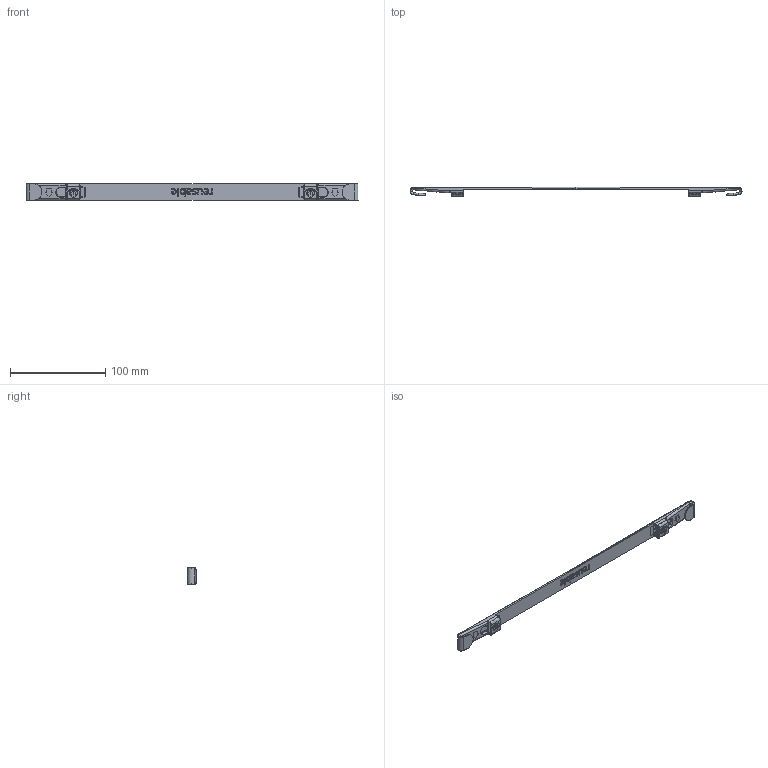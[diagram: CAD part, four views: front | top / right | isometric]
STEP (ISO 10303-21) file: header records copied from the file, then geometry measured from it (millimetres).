
FILE_DESCRIPTION(/* description */ (''),/* implementation_level */ '2;1');
FILE_NAME(/* name */ '3DS_FA~4',/* time_stamp */ '2020-04-08T10:04:23-07:00',/* author */ (''),/* organization */ (''),/* preprocessor_version */ 'ST-DEVELOPER v16.5',/* originating_system */ '',/* authorisation */ '');
FILE_SCHEMA (('AUTOMOTIVE_DESIGN'));
Length unit declared in the file: millimetre
Products named in the file (1): Document
Bounding box: 347.88 x 9.83 x 17 mm (x, y, z)
Volume: 16885.6 mm3; surface area: 17060.2 mm2
Topology: 1 solids, 1 shells, 571 faces, 1648 edges, 1087 vertices
Faces by surface type: bspline 403, plane 168
Entity records: 30640 total; most frequent: CARTESIAN_POINT 20818, ORIENTED_EDGE 3276, EDGE_CURVE 1638, B_SPLINE_CURVE_WITH_KNOTS 1340, VERTEX_POINT 1087, EDGE_LOOP 597, ADVANCED_FACE 571, FACE_OUTER_BOUND 571
